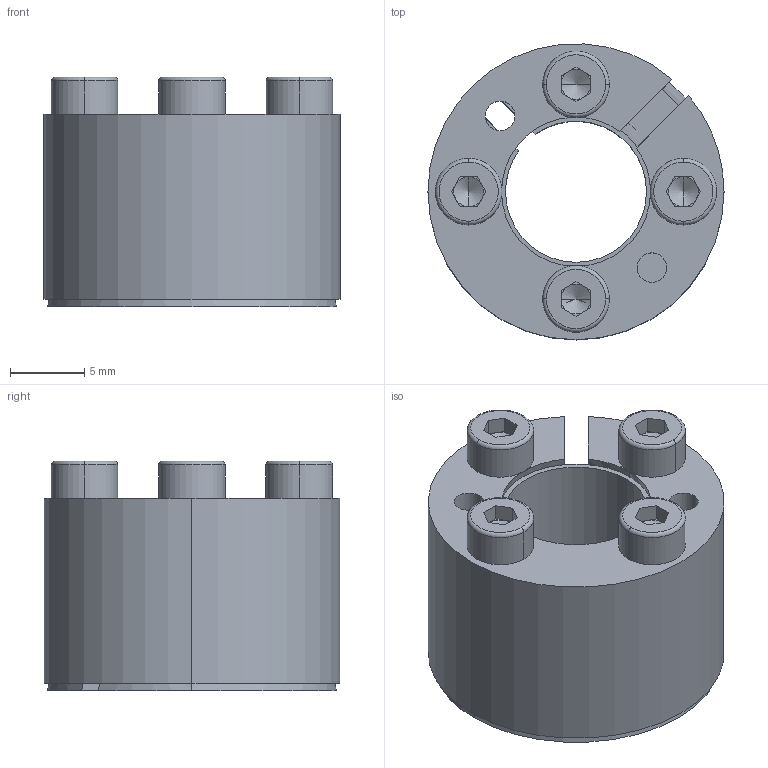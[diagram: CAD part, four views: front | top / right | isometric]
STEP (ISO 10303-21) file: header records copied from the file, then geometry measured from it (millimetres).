
FILE_DESCRIPTION (( 'STEP AP214' ), '1' );
FILE_NAME ('CONEX-K-9.53x20.step', '2013-04-06T13:20:18', ( 'Pc' ), ( '' ), 'SwSTEP 2.0', 'SolidWorks 2013', '' );
FILE_SCHEMA (( 'AUTOMOTIVE_DESIGN' ));
Length unit declared in the file: millimetre
Products named in the file (1): CONEX-K-9.53x20
Bounding box: 20 x 19.98 x 15.51 mm (x, y, z)
Volume: 2518.6 mm3; surface area: 3995.1 mm2
Topology: 6 solids, 6 shells, 162 faces, 378 edges, 228 vertices
Faces by surface type: plane 70, cylinder 48, cone 28, torus 16
Entity records: 6473 total; most frequent: DIRECTION 866, CARTESIAN_POINT 785, ORIENTED_EDGE 740, EDGE_CURVE 370, AXIS2_PLACEMENT_3D 341, VERTEX_POINT 228, EDGE_LOOP 190, VECTOR 184
